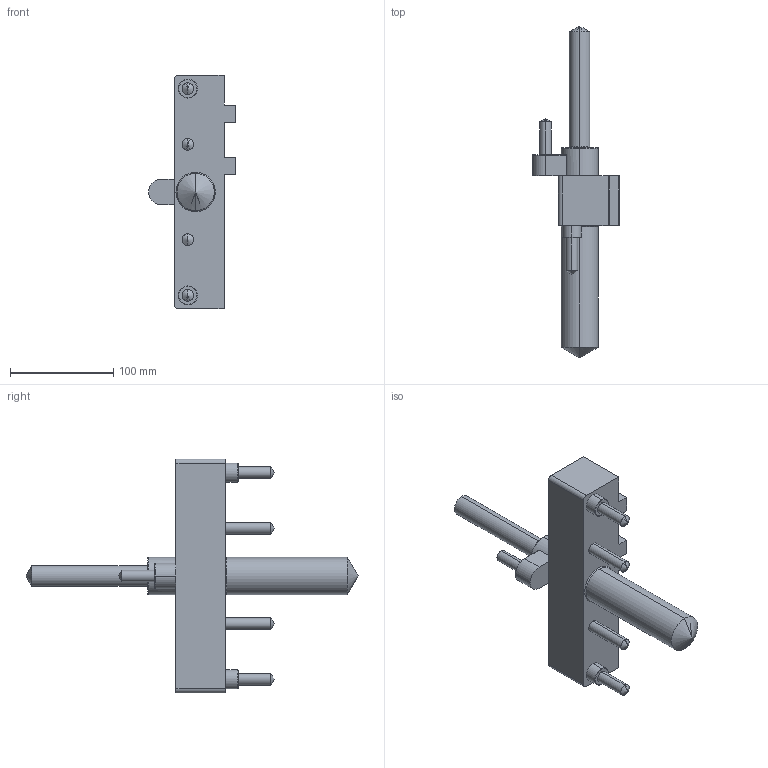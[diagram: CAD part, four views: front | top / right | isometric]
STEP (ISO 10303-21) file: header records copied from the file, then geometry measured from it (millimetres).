
FILE_DESCRIPTION (( 'STEP AP214' ), '1' );
FILE_NAME ('LS30100L_False_cut_LS.STEP', '2024-09-17T10:46:17', ( '' ), ( '' ), 'SwSTEP 2.0', 'SolidWorks 2021', '' );
FILE_SCHEMA (( 'AUTOMOTIVE_DESIGN' ));
Length unit declared in the file: millimetre
Products named in the file (1): LS30100L_False_cut_LS
Bounding box: 84 x 321 x 226 mm (x, y, z)
Volume: 762983.9 mm3; surface area: 84102.2 mm2
Topology: 1 solids, 1 shells, 83 faces, 206 edges, 120 vertices
Faces by surface type: cylinder 30, plane 25, cone 20, torus 8
Entity records: 2399 total; most frequent: DIRECTION 439, CARTESIAN_POINT 410, ORIENTED_EDGE 384, EDGE_CURVE 192, AXIS2_PLACEMENT_3D 165, VERTEX_POINT 120, VECTOR 109, LINE 109
